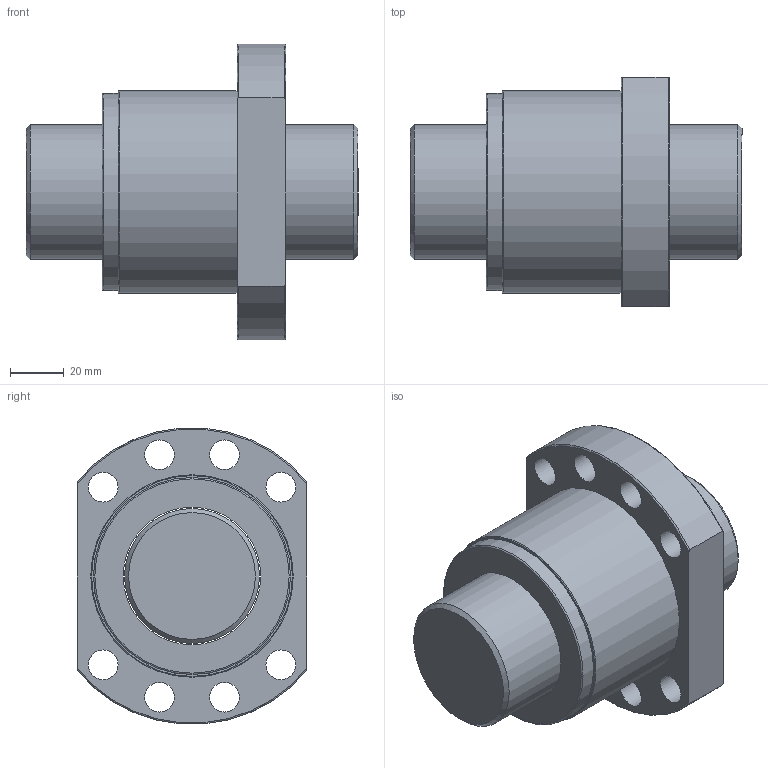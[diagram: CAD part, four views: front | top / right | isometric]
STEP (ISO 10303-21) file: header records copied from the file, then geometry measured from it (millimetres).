
FILE_DESCRIPTION(/* description */ (''),/* implementation_level */ '2;1');
FILE_NAME(/* name */ 'SFS5010',/* time_stamp */ '2007-10-26T12:00:55+08:00',/* author */ (''),/* organization */ (''),/* preprocessor_version */ 'ST-DEVELOPER v9',/* originating_system */ 'UGS - NX 3.0',/* authorisation */ '');
FILE_SCHEMA (('CONFIG_CONTROL_DESIGN'));
Length unit declared in the file: millimetre
Products named in the file (1): jaso15A4i30t
Bounding box: 123 x 85 x 109.65 mm (x, y, z)
Volume: 456206.3 mm3; surface area: 78752.6 mm2
Topology: 4 solids, 4 shells, 39 faces, 90 edges, 61 vertices
Faces by surface type: cylinder 18, plane 12, torus 7, cone 2
Full cylindrical faces by diameter (mm): 11 x8, 50 x1, 51 x3, 73 x2, 75 x2
Entity records: 1208 total; most frequent: CARTESIAN_POINT 298, DIRECTION 178, ORIENTED_EDGE 122, AXIS2_PLACEMENT_3D 85, EDGE_LOOP 84, FACE_BOUND 64, EDGE_CURVE 61, VERTEX_POINT 53
